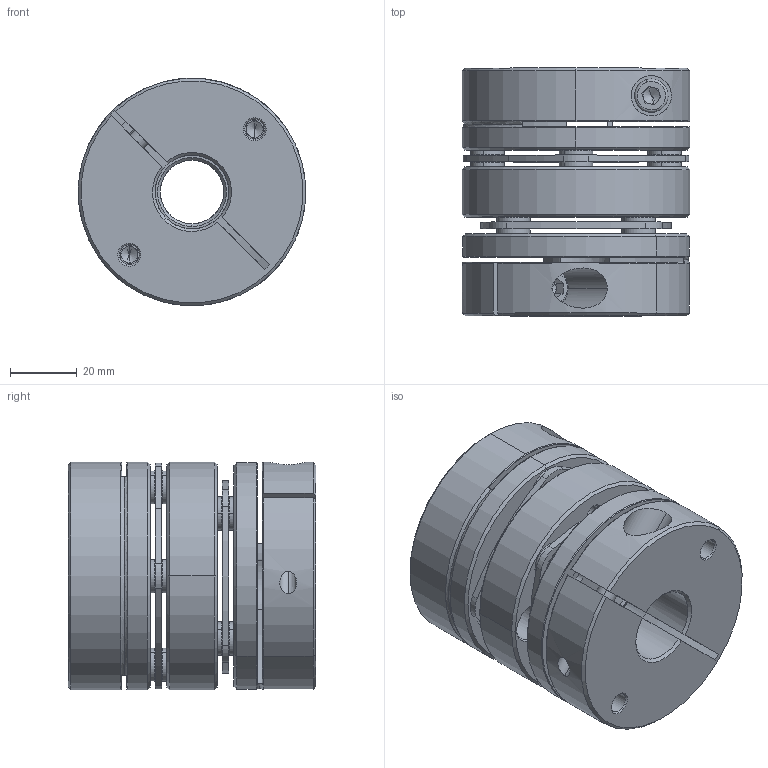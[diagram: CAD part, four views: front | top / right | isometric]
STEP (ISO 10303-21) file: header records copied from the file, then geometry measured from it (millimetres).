
FILE_DESCRIPTION (( 'STEP AP203' ), '1' );
FILE_NAME ('LD2-D68-19-22.STEP', '2021-10-26T08:29:55', ( '' ), ( '' ), 'SwSTEP 2.0', 'SolidWorks 2018', '' );
FILE_SCHEMA (( 'CONFIG_CONTROL_DESIGN' ));
Length unit declared in the file: millimetre
Products named in the file (2): LD2-D68-19-22; 錨璃102^LD2-D68
Assembly tree (1 placements, depth 2):
  LD2-D68-19-22
    錨璃102^LD2-D68
Bounding box: 68 x 74 x 68 mm (x, y, z)
Volume: 188953.3 mm3; surface area: 64629.1 mm2
Topology: 1 solids, 27 shells, 736 faces, 1708 edges, 1040 vertices
Faces by surface type: cylinder 258, cone 226, plane 222, torus 30
Entity records: 21536 total; most frequent: DIRECTION 4002, CARTESIAN_POINT 3933, ORIENTED_EDGE 3368, EDGE_CURVE 1684, AXIS2_PLACEMENT_3D 1625, VERTEX_POINT 1040, CIRCLE 885, EDGE_LOOP 872
